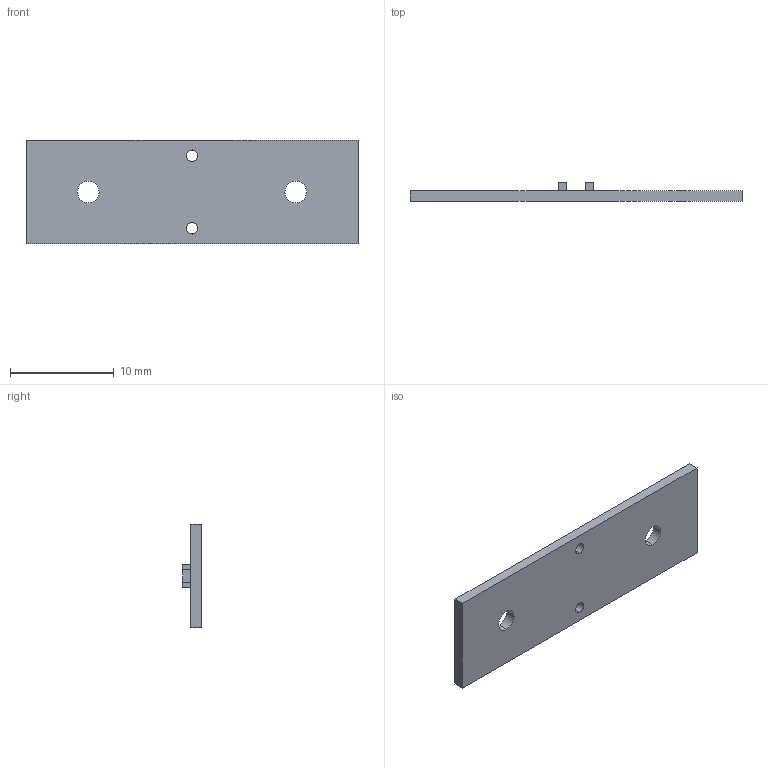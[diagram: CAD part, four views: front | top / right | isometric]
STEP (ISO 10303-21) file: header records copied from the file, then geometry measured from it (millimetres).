
FILE_DESCRIPTION (( 'STEP AP214' ), '1' );
FILE_NAME ('033-2020_0001_(DoubleLobeTarget_3D).STEP', '2025-06-02T09:58:27', ( '' ), ( '' ), 'SwSTEP 2.0', 'SolidWorks 2024', '' );
FILE_SCHEMA (( 'AUTOMOTIVE_DESIGN' ));
Length unit declared in the file: millimetre
Products named in the file (3): 033-2020_0001_(DoubleLobeTarget_3D); 010-2007_0001_(32x10_B6_LinearBTarget_PCB); 013-1042_0001_Cmodel
Assembly tree (3 placements, depth 2):
  033-2020_0001_(DoubleLobeTarget_3D)
    010-2007_0001_(32x10_B6_LinearBTarget_PCB)
    013-1042_0001_Cmodel  x2
Bounding box: 32 x 1.8 x 10 mm (x, y, z)
Volume: 313.8 mm3; surface area: 742.9 mm2
Topology: 3 solids, 3 shells, 46 faces, 108 edges, 72 vertices
Faces by surface type: plane 38, cylinder 8
Entity records: 1270 total; most frequent: DIRECTION 160, CARTESIAN_POINT 156, ORIENTED_EDGE 144, EDGE_CURVE 72, VECTOR 56, LINE 56, AXIS2_PLACEMENT_3D 52, VERTEX_POINT 48
